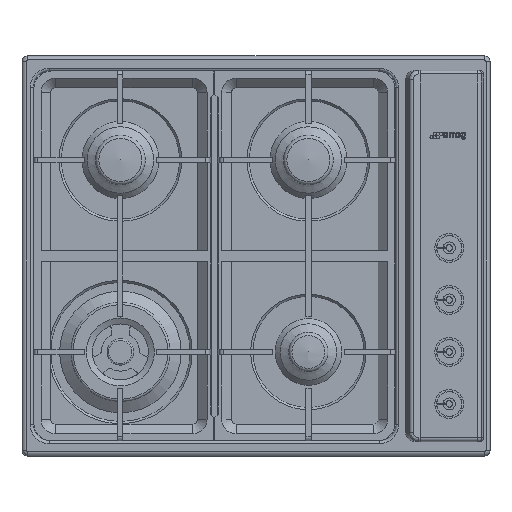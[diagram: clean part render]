
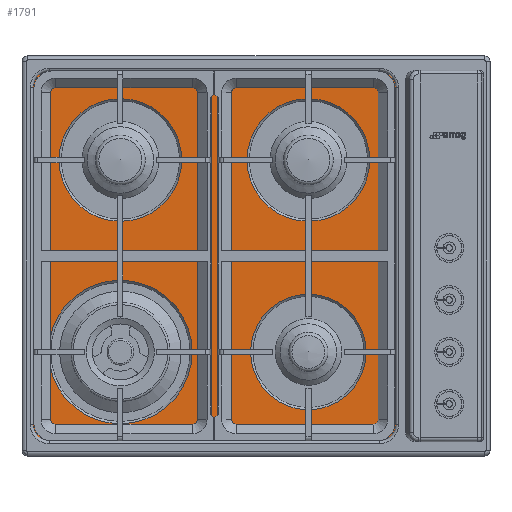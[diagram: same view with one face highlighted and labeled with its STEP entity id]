
A CAD part, top view. The second image highlights one B-rep face of the part: STEP entity #1791.
In plain terms, the highlighted planar face has unit normal (0, 0, 1).
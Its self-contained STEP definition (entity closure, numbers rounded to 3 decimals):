
#363=FACE_BOUND('',#3363,.T.);
#364=FACE_BOUND('',#3364,.T.);
#365=FACE_BOUND('',#3365,.T.);
#366=FACE_BOUND('',#3366,.T.);
#367=FACE_BOUND('',#3367,.T.);
#1182=PLANE('',#12888);
#1791=ADVANCED_FACE('',(#363,#364,#365,#366,#367),#1182,.T.);
#3363=EDGE_LOOP('',(#8281));
#3364=EDGE_LOOP('',(#8282));
#3365=EDGE_LOOP('',(#8283));
#3366=EDGE_LOOP('',(#8284));
#3367=EDGE_LOOP('',(#8285,#8286,#8287,#8288,#8289,#8290,#8291,#8292));
#4528=LINE('',#19394,#5596);
#4532=LINE('',#19406,#5600);
#4536=LINE('',#19418,#5604);
#4540=LINE('',#19430,#5608);
#5596=VECTOR('',#15835,1.);
#5600=VECTOR('',#15847,1.);
#5604=VECTOR('',#15859,1.);
#5608=VECTOR('',#15871,1.);
#8281=ORIENTED_EDGE('',*,*,#11269,.T.);
#8282=ORIENTED_EDGE('',*,*,#11270,.T.);
#8283=ORIENTED_EDGE('',*,*,#11271,.T.);
#8284=ORIENTED_EDGE('',*,*,#11272,.T.);
#8285=ORIENTED_EDGE('',*,*,#11248,.T.);
#8286=ORIENTED_EDGE('',*,*,#11251,.F.);
#8287=ORIENTED_EDGE('',*,*,#11254,.T.);
#8288=ORIENTED_EDGE('',*,*,#11257,.F.);
#8289=ORIENTED_EDGE('',*,*,#11260,.T.);
#8290=ORIENTED_EDGE('',*,*,#11263,.F.);
#8291=ORIENTED_EDGE('',*,*,#11266,.T.);
#8292=ORIENTED_EDGE('',*,*,#11268,.F.);
#9770=VERTEX_POINT('',#19389);
#9772=VERTEX_POINT('',#19393);
#9774=VERTEX_POINT('',#19399);
#9776=VERTEX_POINT('',#19405);
#9778=VERTEX_POINT('',#19411);
#9780=VERTEX_POINT('',#19417);
#9782=VERTEX_POINT('',#19423);
#9784=VERTEX_POINT('',#19429);
#9785=VERTEX_POINT('',#19436);
#9786=VERTEX_POINT('',#19438);
#9787=VERTEX_POINT('',#19440);
#9788=VERTEX_POINT('',#19442);
#11248=EDGE_CURVE('',#9770,#9772,#4528,.T.);
#11251=EDGE_CURVE('',#9774,#9772,#11875,.T.);
#11254=EDGE_CURVE('',#9774,#9776,#4532,.T.);
#11257=EDGE_CURVE('',#9778,#9776,#11877,.T.);
#11260=EDGE_CURVE('',#9778,#9780,#4536,.T.);
#11263=EDGE_CURVE('',#9782,#9780,#11879,.T.);
#11266=EDGE_CURVE('',#9782,#9784,#4540,.T.);
#11268=EDGE_CURVE('',#9770,#9784,#11881,.T.);
#11269=EDGE_CURVE('',#9785,#9785,#11882,.T.);
#11270=EDGE_CURVE('',#9786,#9786,#11883,.T.);
#11271=EDGE_CURVE('',#9787,#9787,#11884,.T.);
#11272=EDGE_CURVE('',#9788,#9788,#11885,.T.);
#11875=CIRCLE('',#12870,20.);
#11877=CIRCLE('',#12874,20.);
#11879=CIRCLE('',#12878,20.);
#11881=CIRCLE('',#12882,20.);
#11882=CIRCLE('',#12884,76.7);
#11883=CIRCLE('',#12885,72.2);
#11884=CIRCLE('',#12886,89.7);
#11885=CIRCLE('',#12887,76.7);
#12870=AXIS2_PLACEMENT_3D('',#19400,#15841,#15842);
#12874=AXIS2_PLACEMENT_3D('',#19412,#15853,#15854);
#12878=AXIS2_PLACEMENT_3D('',#19424,#15865,#15866);
#12882=AXIS2_PLACEMENT_3D('',#19433,#15876,#15877);
#12884=AXIS2_PLACEMENT_3D('',#19435,#15880,#15881);
#12885=AXIS2_PLACEMENT_3D('',#19437,#15882,#15883);
#12886=AXIS2_PLACEMENT_3D('',#19439,#15884,#15885);
#12887=AXIS2_PLACEMENT_3D('',#19441,#15886,#15887);
#12888=AXIS2_PLACEMENT_3D('',#19443,#15888,#15889);
#15835=DIRECTION('',(0.,1.,0.));
#15841=DIRECTION('',(0.,0.,-1.));
#15842=DIRECTION('',(-1.,0.,0.));
#15847=DIRECTION('',(-1.,0.,0.));
#15853=DIRECTION('',(0.,0.,-1.));
#15854=DIRECTION('',(-1.,0.,0.));
#15859=DIRECTION('',(0.,-1.,0.));
#15865=DIRECTION('',(0.,0.,-1.));
#15866=DIRECTION('',(-1.,0.,0.));
#15871=DIRECTION('',(1.,0.,0.));
#15876=DIRECTION('',(0.,0.,-1.));
#15877=DIRECTION('',(-1.,0.,0.));
#15880=DIRECTION('',(0.,0.,-1.));
#15881=DIRECTION('',(-1.,0.,0.));
#15882=DIRECTION('',(0.,0.,-1.));
#15883=DIRECTION('',(-1.,0.,0.));
#15884=DIRECTION('',(0.,0.,-1.));
#15885=DIRECTION('',(-1.,0.,0.));
#15886=DIRECTION('',(0.,0.,-1.));
#15887=DIRECTION('',(-1.,0.,0.));
#15888=DIRECTION('',(0.,0.,1.));
#15889=DIRECTION('',(-1.,0.,0.));
#19389=CARTESIAN_POINT('',(421.5,78.5,3.5));
#19393=CARTESIAN_POINT('',(421.5,500.5,3.5));
#19394=CARTESIAN_POINT('',(421.5,78.5,3.5));
#19399=CARTESIAN_POINT('',(401.5,520.5,3.5));
#19400=CARTESIAN_POINT('',(401.5,500.5,3.5));
#19405=CARTESIAN_POINT('',(-11.5,520.5,3.5));
#19406=CARTESIAN_POINT('',(401.5,520.5,3.5));
#19411=CARTESIAN_POINT('',(-31.5,500.5,3.5));
#19412=CARTESIAN_POINT('',(-11.5,500.5,3.5));
#19417=CARTESIAN_POINT('',(-31.5,78.5,3.5));
#19418=CARTESIAN_POINT('',(-31.5,500.5,3.5));
#19423=CARTESIAN_POINT('',(-11.5,58.5,3.5));
#19424=CARTESIAN_POINT('',(-11.5,78.5,3.5));
#19429=CARTESIAN_POINT('',(401.5,58.5,3.5));
#19430=CARTESIAN_POINT('',(-11.5,58.5,3.5));
#19433=CARTESIAN_POINT('',(401.5,78.5,3.5));
#19435=CARTESIAN_POINT('',(312.5,409.5,3.5));
#19436=CARTESIAN_POINT('',(235.8,409.5,3.5));
#19437=CARTESIAN_POINT('',(312.5,169.5,3.5));
#19438=CARTESIAN_POINT('',(240.3,169.5,3.5));
#19439=CARTESIAN_POINT('',(77.5,169.5,3.5));
#19440=CARTESIAN_POINT('',(-12.2,169.5,3.5));
#19441=CARTESIAN_POINT('',(77.5,409.5,3.5));
#19442=CARTESIAN_POINT('',(0.8,409.5,3.5));
#19443=CARTESIAN_POINT('',(401.5,500.5,3.5));
